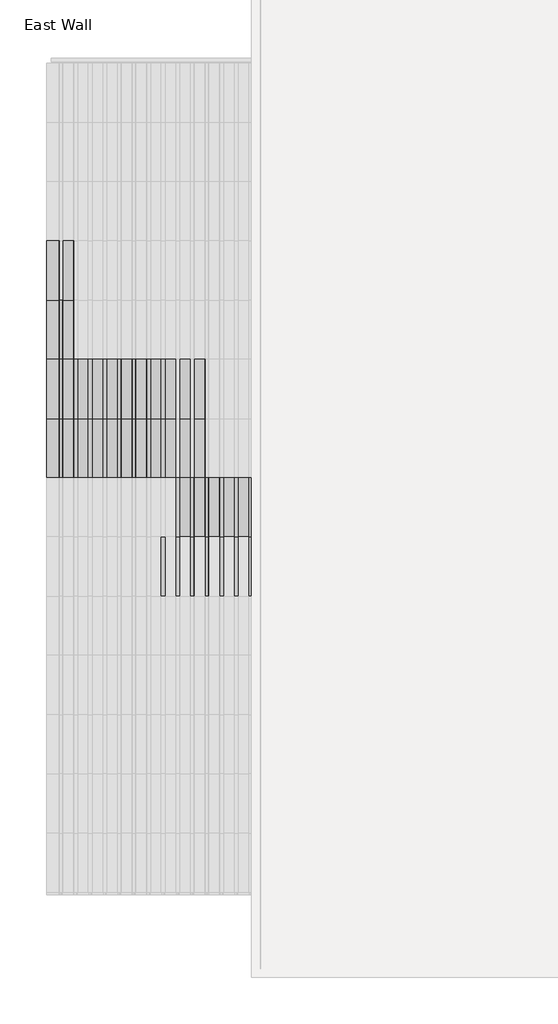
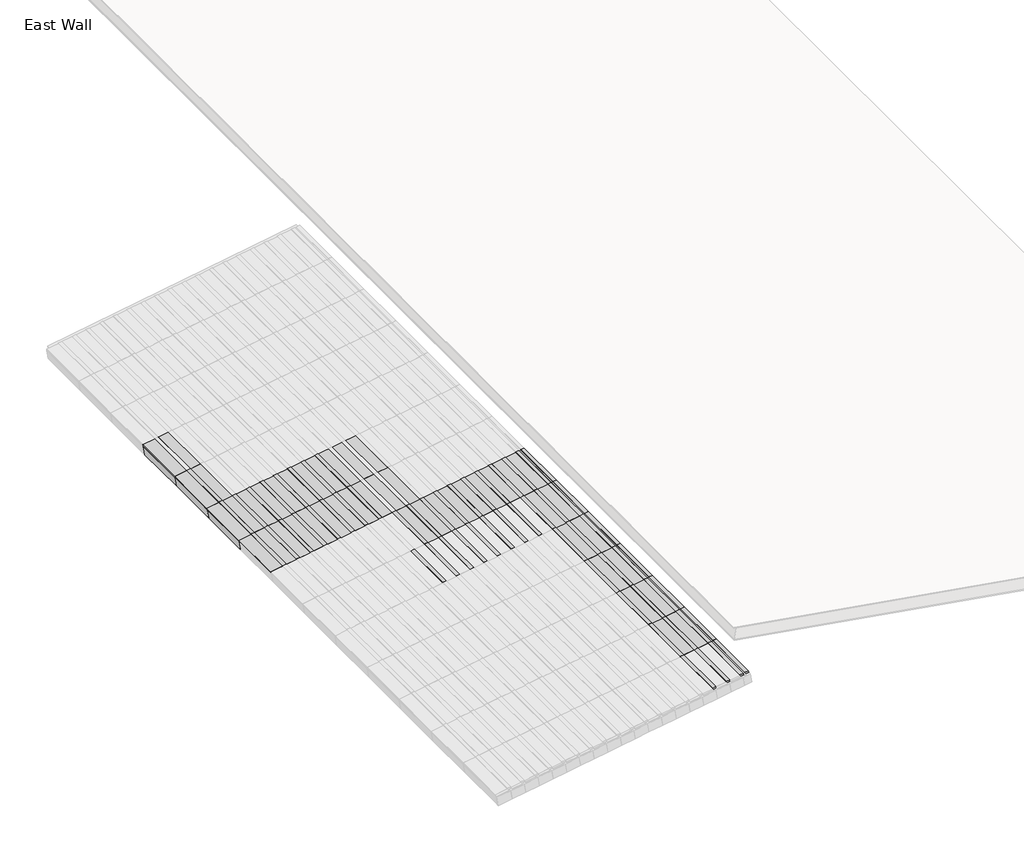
# One storey, part 3 of 5: 70 members, 51 plates.
"""IFC4 building model written with IfcOpenShell, lengths in millimetres."""

from ifc_helpers import new_model, si_unit, origin, place, context, project, spatial, transform, mapped, element, save
from components import rectangular_mullion_aluminum_trellis_036251f1, rectangular_mullion_fascia_9a07afea, rectangular_mullion_wood_slats_095afc73, rectangular_mullion_wood_slats_8d49de8e, system_panel_empty_9ec88690, system_panel_empty_e91cd120, system_panel_empty_25c6223c

model = new_model("IFC4")

# Units and contexts
model_context = context("Model", 3, world=origin())
ifc_project = project(units=[si_unit("LENGTHUNIT", "METRE", prefix="MILLI")], contexts=[model_context])

# Site, building, storey
site = spatial("IfcSite", under=ifc_project)
building = spatial("IfcBuilding", under=site)
storey = spatial("IfcBuildingStorey", under=building, Name="East Wall", Elevation=3657.6)

# Members
placement = place(None, origin())
rectangular_mullion_aluminum_trellis_shape = rectangular_mullion_aluminum_trellis_036251f1(model_context)
element("IfcMember", 1, ObjectType="Rectangular Mullion : Aluminum Trellis", at=placement, inside=storey, context=model_context, shape_type="MappedRepresentation", body=[
    mapped(rectangular_mullion_aluminum_trellis_shape, transform((12485.7750833, 7700.0499287, 3444.712565), x_axis=(0.0, -1.0, 0.0), y_axis=(0.16439898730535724, 0.0, -0.9863939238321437), z_axis=(0.9863939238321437, 0.0, 0.16439898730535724))),
])
element("IfcMember", 2, ObjectType="Rectangular Mullion : Aluminum Trellis", at=placement, inside=storey, context=model_context, shape_type="MappedRepresentation", body=[
    mapped(rectangular_mullion_aluminum_trellis_shape, transform((12485.7750833, 7090.4499287, 3444.712565), x_axis=(0.0, -1.0, 0.0), y_axis=(0.16439898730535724, 0.0, -0.9863939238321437), z_axis=(0.9863939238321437, 0.0, 0.16439898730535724))),
])
element("IfcMember", 3, ObjectType="Rectangular Mullion : Aluminum Trellis", at=placement, inside=storey, context=model_context, shape_type="MappedRepresentation", body=[
    mapped(rectangular_mullion_aluminum_trellis_shape, transform((12485.7750833, 6480.8499287, 3444.712565), x_axis=(0.0, -1.0, 0.0), y_axis=(0.16439898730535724, 0.0, -0.9863939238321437), z_axis=(0.9863939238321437, 0.0, 0.16439898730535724))),
])
element("IfcMember", 4, ObjectType="Rectangular Mullion : Aluminum Trellis", at=placement, inside=storey, context=model_context, shape_type="MappedRepresentation", body=[
    mapped(rectangular_mullion_aluminum_trellis_shape, transform((12485.7750833, 5871.2499287, 3444.712565), x_axis=(0.0, -1.0, 0.0), y_axis=(0.16439898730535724, 0.0, -0.9863939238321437), z_axis=(0.9863939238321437, 0.0, 0.16439898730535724))),
])
element("IfcMember", 5, ObjectType="Rectangular Mullion : Aluminum Trellis", at=placement, inside=storey, context=model_context, shape_type="MappedRepresentation", body=[
    mapped(rectangular_mullion_aluminum_trellis_shape, transform((12485.7750833, 5261.6499287, 3444.712565), x_axis=(0.0, -1.0, 0.0), y_axis=(0.16439898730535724, 0.0, -0.9863939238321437), z_axis=(0.9863939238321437, 0.0, 0.16439898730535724))),
])
element("IfcMember", 6, ObjectType="Rectangular Mullion : Aluminum Trellis", at=placement, inside=storey, context=model_context, shape_type="MappedRepresentation", body=[
    mapped(rectangular_mullion_aluminum_trellis_shape, transform((12485.7750833, 4652.0499287, 3444.712565), x_axis=(0.0, -1.0, 0.0), y_axis=(0.16439898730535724, 0.0, -0.9863939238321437), z_axis=(0.9863939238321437, 0.0, 0.16439898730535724))),
])
element("IfcMember", 7, ObjectType="Rectangular Mullion : Aluminum Trellis", at=placement, inside=storey, context=model_context, shape_type="MappedRepresentation", body=[
    mapped(rectangular_mullion_aluminum_trellis_shape, transform((12485.7750833, 4042.4499287, 3444.712565), x_axis=(0.0, -1.0, 0.0), y_axis=(0.16439898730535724, 0.0, -0.9863939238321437), z_axis=(0.9863939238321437, 0.0, 0.16439898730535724))),
])
rectangular_mullion_fascia_shape = rectangular_mullion_fascia_9a07afea(model_context)
element("IfcMember", 8, ObjectType="Rectangular Mullion : Fascia", at=placement, inside=storey, context=model_context, shape_type="MappedRepresentation", body=[
    mapped(rectangular_mullion_fascia_shape, transform((9705.6989802, 9554.2499281, 3044.5915776), x_axis=(-0.9863939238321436, 0.0, -0.16439898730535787), y_axis=(0.16439898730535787, 0.0, -0.9863939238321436), z_axis=(0.0, -1.0, 0.0))),
])
element("IfcMember", 9, ObjectType="Rectangular Mullion : Fascia", at=placement, inside=storey, context=model_context, shape_type="MappedRepresentation", body=[
    mapped(rectangular_mullion_fascia_shape, transform((9705.6989802, 8944.6499281, 3044.5915776), x_axis=(-0.9863939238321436, 0.0, -0.16439898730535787), y_axis=(0.16439898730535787, 0.0, -0.9863939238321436), z_axis=(0.0, -1.0, 0.0))),
])
element("IfcMember", 10, ObjectType="Rectangular Mullion : Fascia", at=placement, inside=storey, context=model_context, shape_type="MappedRepresentation", body=[
    mapped(rectangular_mullion_fascia_shape, transform((9705.6989802, 8335.0499281, 3044.5915776), x_axis=(-0.9863939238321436, 0.0, -0.16439898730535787), y_axis=(0.16439898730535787, 0.0, -0.9863939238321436), z_axis=(0.0, -1.0, 0.0))),
])
rectangular_mullion_wood_slats_shape = rectangular_mullion_wood_slats_095afc73(model_context)
element("IfcMember", 11, ObjectType="Rectangular Mullion : Wood Slats", at=placement, inside=storey, context=model_context, shape_type="MappedRepresentation", body=[
    mapped(rectangular_mullion_wood_slats_shape, transform((9856.0254142, 9554.2499281, 3069.6459833), x_axis=(0.9863939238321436, 0.0, 0.16439898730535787), y_axis=(0.16439898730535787, 0.0, -0.9863939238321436), z_axis=(0.0, 1.0, 0.0))),
])
element("IfcMember", 12, ObjectType="Rectangular Mullion : Wood Slats", at=placement, inside=storey, context=model_context, shape_type="MappedRepresentation", body=[
    mapped(rectangular_mullion_wood_slats_shape, transform((9856.0254142, 8944.6499281, 3069.6459833), x_axis=(0.9863939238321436, 0.0, 0.16439898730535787), y_axis=(0.16439898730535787, 0.0, -0.9863939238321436), z_axis=(0.0, 1.0, 0.0))),
])
element("IfcMember", 13, ObjectType="Rectangular Mullion : Wood Slats", at=placement, inside=storey, context=model_context, shape_type="MappedRepresentation", body=[
    mapped(rectangular_mullion_wood_slats_shape, transform((9856.0254142, 8335.0499281, 3069.6459833), x_axis=(0.9863939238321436, 0.0, 0.16439898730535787), y_axis=(0.16439898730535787, 0.0, -0.9863939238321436), z_axis=(0.0, 1.0, 0.0))),
])
element("IfcMember", 14, ObjectType="Rectangular Mullion : Wood Slats", at=placement, inside=storey, context=model_context, shape_type="MappedRepresentation", body=[
    mapped(rectangular_mullion_wood_slats_shape, transform((10006.3518482, 8944.6499281, 3094.700389), x_axis=(0.9863939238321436, 0.0, 0.16439898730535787), y_axis=(0.16439898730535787, 0.0, -0.9863939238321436), z_axis=(0.0, 1.0, 0.0))),
])
element("IfcMember", 15, ObjectType="Rectangular Mullion : Wood Slats", at=placement, inside=storey, context=model_context, shape_type="MappedRepresentation", body=[
    mapped(rectangular_mullion_wood_slats_shape, transform((10006.3518482, 8335.0499281, 3094.700389), x_axis=(0.9863939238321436, 0.0, 0.16439898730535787), y_axis=(0.16439898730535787, 0.0, -0.9863939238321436), z_axis=(0.0, 1.0, 0.0))),
])
element("IfcMember", 16, ObjectType="Rectangular Mullion : Wood Slats", at=placement, inside=storey, context=model_context, shape_type="MappedRepresentation", body=[
    mapped(rectangular_mullion_wood_slats_shape, transform((10156.6782822, 8944.6499281, 3119.7547946), x_axis=(0.9863939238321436, 0.0, 0.16439898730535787), y_axis=(0.16439898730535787, 0.0, -0.9863939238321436), z_axis=(0.0, 1.0, 0.0))),
])
element("IfcMember", 17, ObjectType="Rectangular Mullion : Wood Slats", at=placement, inside=storey, context=model_context, shape_type="MappedRepresentation", body=[
    mapped(rectangular_mullion_wood_slats_shape, transform((10156.6782822, 8335.0499281, 3119.7547946), x_axis=(0.9863939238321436, 0.0, 0.16439898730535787), y_axis=(0.16439898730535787, 0.0, -0.9863939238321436), z_axis=(0.0, 1.0, 0.0))),
])
element("IfcMember", 18, ObjectType="Rectangular Mullion : Wood Slats", at=placement, inside=storey, context=model_context, shape_type="MappedRepresentation", body=[
    mapped(rectangular_mullion_wood_slats_shape, transform((10307.0047162, 8944.6499281, 3144.8092003), x_axis=(0.9863939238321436, 0.0, 0.16439898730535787), y_axis=(0.16439898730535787, 0.0, -0.9863939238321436), z_axis=(0.0, 1.0, 0.0))),
])
element("IfcMember", 19, ObjectType="Rectangular Mullion : Wood Slats", at=placement, inside=storey, context=model_context, shape_type="MappedRepresentation", body=[
    mapped(rectangular_mullion_wood_slats_shape, transform((10307.0047162, 8335.0499281, 3144.8092003), x_axis=(0.9863939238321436, 0.0, 0.16439898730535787), y_axis=(0.16439898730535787, 0.0, -0.9863939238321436), z_axis=(0.0, 1.0, 0.0))),
])
element("IfcMember", 20, ObjectType="Rectangular Mullion : Wood Slats", at=placement, inside=storey, context=model_context, shape_type="MappedRepresentation", body=[
    mapped(rectangular_mullion_wood_slats_shape, transform((10457.3311502, 8944.6499281, 3169.863606), x_axis=(0.9863939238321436, 0.0, 0.16439898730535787), y_axis=(0.16439898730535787, 0.0, -0.9863939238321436), z_axis=(0.0, 1.0, 0.0))),
])
element("IfcMember", 21, ObjectType="Rectangular Mullion : Wood Slats", at=placement, inside=storey, context=model_context, shape_type="MappedRepresentation", body=[
    mapped(rectangular_mullion_wood_slats_shape, transform((10457.3311502, 8335.0499281, 3169.863606), x_axis=(0.9863939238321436, 0.0, 0.16439898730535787), y_axis=(0.16439898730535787, 0.0, -0.9863939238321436), z_axis=(0.0, 1.0, 0.0))),
])
element("IfcMember", 22, ObjectType="Rectangular Mullion : Wood Slats", at=placement, inside=storey, context=model_context, shape_type="MappedRepresentation", body=[
    mapped(rectangular_mullion_wood_slats_shape, transform((10607.6575842, 8944.6499281, 3194.9180116), x_axis=(0.9863939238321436, 0.0, 0.16439898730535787), y_axis=(0.16439898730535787, 0.0, -0.9863939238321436), z_axis=(0.0, 1.0, 0.0))),
])
element("IfcMember", 23, ObjectType="Rectangular Mullion : Wood Slats", at=placement, inside=storey, context=model_context, shape_type="MappedRepresentation", body=[
    mapped(rectangular_mullion_wood_slats_shape, transform((10607.6575842, 8335.0499281, 3194.9180116), x_axis=(0.9863939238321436, 0.0, 0.16439898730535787), y_axis=(0.16439898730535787, 0.0, -0.9863939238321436), z_axis=(0.0, 1.0, 0.0))),
])
element("IfcMember", 24, ObjectType="Rectangular Mullion : Wood Slats", at=placement, inside=storey, context=model_context, shape_type="MappedRepresentation", body=[
    mapped(rectangular_mullion_wood_slats_shape, transform((10757.9840182, 8944.6499281, 3219.9724173), x_axis=(0.9863939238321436, 0.0, 0.16439898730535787), y_axis=(0.16439898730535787, 0.0, -0.9863939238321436), z_axis=(0.0, 1.0, 0.0))),
])
element("IfcMember", 25, ObjectType="Rectangular Mullion : Wood Slats", at=placement, inside=storey, context=model_context, shape_type="MappedRepresentation", body=[
    mapped(rectangular_mullion_wood_slats_shape, transform((10757.9840182, 8335.0499281, 3219.9724173), x_axis=(0.9863939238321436, 0.0, 0.16439898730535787), y_axis=(0.16439898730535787, 0.0, -0.9863939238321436), z_axis=(0.0, 1.0, 0.0))),
])
element("IfcMember", 26, ObjectType="Rectangular Mullion : Wood Slats", at=placement, inside=storey, context=model_context, shape_type="MappedRepresentation", body=[
    mapped(rectangular_mullion_wood_slats_shape, transform((10908.3104522, 8944.6499281, 3245.026823), x_axis=(0.9863939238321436, 0.0, 0.16439898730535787), y_axis=(0.16439898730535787, 0.0, -0.9863939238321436), z_axis=(0.0, 1.0, 0.0))),
])
element("IfcMember", 27, ObjectType="Rectangular Mullion : Wood Slats", at=placement, inside=storey, context=model_context, shape_type="MappedRepresentation", body=[
    mapped(rectangular_mullion_wood_slats_shape, transform((10908.3104522, 8335.0499281, 3245.026823), x_axis=(0.9863939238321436, 0.0, 0.16439898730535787), y_axis=(0.16439898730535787, 0.0, -0.9863939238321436), z_axis=(0.0, 1.0, 0.0))),
])
element("IfcMember", 28, ObjectType="Rectangular Mullion : Wood Slats", at=placement, inside=storey, context=model_context, shape_type="MappedRepresentation", body=[
    mapped(rectangular_mullion_wood_slats_shape, transform((10908.3104522, 7115.8499281, 3245.026823), x_axis=(0.9863939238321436, 0.0, 0.16439898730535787), y_axis=(0.16439898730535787, 0.0, -0.9863939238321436), z_axis=(0.0, 1.0, 0.0))),
])
element("IfcMember", 29, ObjectType="Rectangular Mullion : Wood Slats", at=placement, inside=storey, context=model_context, shape_type="MappedRepresentation", body=[
    mapped(rectangular_mullion_wood_slats_shape, transform((11058.6368862, 7725.4499281, 3270.0812286), x_axis=(0.9863939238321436, 0.0, 0.16439898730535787), y_axis=(0.16439898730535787, 0.0, -0.9863939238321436), z_axis=(0.0, 1.0, 0.0))),
])
element("IfcMember", 30, ObjectType="Rectangular Mullion : Wood Slats", at=placement, inside=storey, context=model_context, shape_type="MappedRepresentation", body=[
    mapped(rectangular_mullion_wood_slats_shape, transform((11058.6368862, 7115.8499281, 3270.0812286), x_axis=(0.9863939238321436, 0.0, 0.16439898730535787), y_axis=(0.16439898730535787, 0.0, -0.9863939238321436), z_axis=(0.0, 1.0, 0.0))),
])
element("IfcMember", 31, ObjectType="Rectangular Mullion : Wood Slats", at=placement, inside=storey, context=model_context, shape_type="MappedRepresentation", body=[
    mapped(rectangular_mullion_wood_slats_shape, transform((11208.9633201, 7725.4499281, 3295.1356343), x_axis=(0.9863939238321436, 0.0, 0.16439898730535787), y_axis=(0.16439898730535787, 0.0, -0.9863939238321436), z_axis=(0.0, 1.0, 0.0))),
])
element("IfcMember", 32, ObjectType="Rectangular Mullion : Wood Slats", at=placement, inside=storey, context=model_context, shape_type="MappedRepresentation", body=[
    mapped(rectangular_mullion_wood_slats_shape, transform((11208.9633201, 7115.8499281, 3295.1356343), x_axis=(0.9863939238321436, 0.0, 0.16439898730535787), y_axis=(0.16439898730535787, 0.0, -0.9863939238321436), z_axis=(0.0, 1.0, 0.0))),
])
element("IfcMember", 33, ObjectType="Rectangular Mullion : Wood Slats", at=placement, inside=storey, context=model_context, shape_type="MappedRepresentation", body=[
    mapped(rectangular_mullion_wood_slats_shape, transform((11359.2897541, 7725.4499281, 3320.19004), x_axis=(0.9863939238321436, 0.0, 0.16439898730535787), y_axis=(0.16439898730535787, 0.0, -0.9863939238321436), z_axis=(0.0, 1.0, 0.0))),
])
element("IfcMember", 34, ObjectType="Rectangular Mullion : Wood Slats", at=placement, inside=storey, context=model_context, shape_type="MappedRepresentation", body=[
    mapped(rectangular_mullion_wood_slats_shape, transform((11359.2897541, 7115.8499281, 3320.19004), x_axis=(0.9863939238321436, 0.0, 0.16439898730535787), y_axis=(0.16439898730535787, 0.0, -0.9863939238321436), z_axis=(0.0, 1.0, 0.0))),
])
element("IfcMember", 35, ObjectType="Rectangular Mullion : Wood Slats", at=placement, inside=storey, context=model_context, shape_type="MappedRepresentation", body=[
    mapped(rectangular_mullion_wood_slats_shape, transform((11509.6161881, 7725.4499281, 3345.2444456), x_axis=(0.9863939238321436, 0.0, 0.16439898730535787), y_axis=(0.16439898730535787, 0.0, -0.9863939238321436), z_axis=(0.0, 1.0, 0.0))),
])
element("IfcMember", 36, ObjectType="Rectangular Mullion : Wood Slats", at=placement, inside=storey, context=model_context, shape_type="MappedRepresentation", body=[
    mapped(rectangular_mullion_wood_slats_shape, transform((11509.6161881, 7115.8499281, 3345.2444456), x_axis=(0.9863939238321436, 0.0, 0.16439898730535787), y_axis=(0.16439898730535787, 0.0, -0.9863939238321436), z_axis=(0.0, 1.0, 0.0))),
])
element("IfcMember", 37, ObjectType="Rectangular Mullion : Wood Slats", at=placement, inside=storey, context=model_context, shape_type="MappedRepresentation", body=[
    mapped(rectangular_mullion_wood_slats_shape, transform((11659.9426221, 7725.4499281, 3370.2988513), x_axis=(0.9863939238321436, 0.0, 0.16439898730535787), y_axis=(0.16439898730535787, 0.0, -0.9863939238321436), z_axis=(0.0, 1.0, 0.0))),
])
element("IfcMember", 38, ObjectType="Rectangular Mullion : Wood Slats", at=placement, inside=storey, context=model_context, shape_type="MappedRepresentation", body=[
    mapped(rectangular_mullion_wood_slats_shape, transform((11659.9426221, 7115.8499281, 3370.2988513), x_axis=(0.9863939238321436, 0.0, 0.16439898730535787), y_axis=(0.16439898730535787, 0.0, -0.9863939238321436), z_axis=(0.0, 1.0, 0.0))),
])
element("IfcMember", 39, ObjectType="Rectangular Mullion : Wood Slats", at=placement, inside=storey, context=model_context, shape_type="MappedRepresentation", body=[
    mapped(rectangular_mullion_wood_slats_shape, transform((11810.2690561, 7725.4499281, 3395.353257), x_axis=(0.9863939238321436, 0.0, 0.16439898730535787), y_axis=(0.16439898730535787, 0.0, -0.9863939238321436), z_axis=(0.0, 1.0, 0.0))),
])
element("IfcMember", 40, ObjectType="Rectangular Mullion : Wood Slats", at=placement, inside=storey, context=model_context, shape_type="MappedRepresentation", body=[
    mapped(rectangular_mullion_wood_slats_shape, transform((11810.2690561, 7115.8499281, 3395.353257), x_axis=(0.9863939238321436, 0.0, 0.16439898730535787), y_axis=(0.16439898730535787, 0.0, -0.9863939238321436), z_axis=(0.0, 1.0, 0.0))),
])
element("IfcMember", 41, ObjectType="Rectangular Mullion : Wood Slats", at=placement, inside=storey, context=model_context, shape_type="MappedRepresentation", body=[
    mapped(rectangular_mullion_wood_slats_shape, transform((11960.5954901, 7725.4499281, 3420.4076626), x_axis=(0.9863939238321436, 0.0, 0.16439898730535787), y_axis=(0.16439898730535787, 0.0, -0.9863939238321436), z_axis=(0.0, 1.0, 0.0))),
])
element("IfcMember", 42, ObjectType="Rectangular Mullion : Wood Slats", at=placement, inside=storey, context=model_context, shape_type="MappedRepresentation", body=[
    mapped(rectangular_mullion_wood_slats_shape, transform((11960.5954901, 7115.8499281, 3420.4076626), x_axis=(0.9863939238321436, 0.0, 0.16439898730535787), y_axis=(0.16439898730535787, 0.0, -0.9863939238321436), z_axis=(0.0, 1.0, 0.0))),
])
element("IfcMember", 43, ObjectType="Rectangular Mullion : Wood Slats", at=placement, inside=storey, context=model_context, shape_type="MappedRepresentation", body=[
    mapped(rectangular_mullion_wood_slats_shape, transform((12110.9219241, 7725.4499281, 3445.4620683), x_axis=(0.9863939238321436, 0.0, 0.16439898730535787), y_axis=(0.16439898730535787, 0.0, -0.9863939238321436), z_axis=(0.0, 1.0, 0.0))),
])
element("IfcMember", 44, ObjectType="Rectangular Mullion : Wood Slats", at=placement, inside=storey, context=model_context, shape_type="MappedRepresentation", body=[
    mapped(rectangular_mullion_wood_slats_shape, transform((12110.9219241, 7115.8499281, 3445.4620683), x_axis=(0.9863939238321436, 0.0, 0.16439898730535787), y_axis=(0.16439898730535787, 0.0, -0.9863939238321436), z_axis=(0.0, 1.0, 0.0))),
])
element("IfcMember", 45, ObjectType="Rectangular Mullion : Wood Slats", at=placement, inside=storey, context=model_context, shape_type="MappedRepresentation", body=[
    mapped(rectangular_mullion_wood_slats_shape, transform((12110.9219241, 6506.2499281, 3445.4620683), x_axis=(0.9863939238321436, 0.0, 0.16439898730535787), y_axis=(0.16439898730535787, 0.0, -0.9863939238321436), z_axis=(0.0, 1.0, 0.0))),
])
element("IfcMember", 46, ObjectType="Rectangular Mullion : Wood Slats", at=placement, inside=storey, context=model_context, shape_type="MappedRepresentation", body=[
    mapped(rectangular_mullion_wood_slats_shape, transform((12110.9219241, 5896.6499281, 3445.4620683), x_axis=(0.9863939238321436, 0.0, 0.16439898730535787), y_axis=(0.16439898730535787, 0.0, -0.9863939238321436), z_axis=(0.0, 1.0, 0.0))),
])
element("IfcMember", 47, ObjectType="Rectangular Mullion : Wood Slats", at=placement, inside=storey, context=model_context, shape_type="MappedRepresentation", body=[
    mapped(rectangular_mullion_wood_slats_shape, transform((12110.9219241, 5287.0499281, 3445.4620683), x_axis=(0.9863939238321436, 0.0, 0.16439898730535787), y_axis=(0.16439898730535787, 0.0, -0.9863939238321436), z_axis=(0.0, 1.0, 0.0))),
])
element("IfcMember", 48, ObjectType="Rectangular Mullion : Wood Slats", at=placement, inside=storey, context=model_context, shape_type="MappedRepresentation", body=[
    mapped(rectangular_mullion_wood_slats_shape, transform((12110.9219241, 4677.4499281, 3445.4620683), x_axis=(0.9863939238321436, 0.0, 0.16439898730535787), y_axis=(0.16439898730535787, 0.0, -0.9863939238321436), z_axis=(0.0, 1.0, 0.0))),
])
element("IfcMember", 49, ObjectType="Rectangular Mullion : Wood Slats", at=placement, inside=storey, context=model_context, shape_type="MappedRepresentation", body=[
    mapped(rectangular_mullion_wood_slats_shape, transform((12110.9219241, 4067.8499281, 3445.4620683), x_axis=(0.9863939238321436, 0.0, 0.16439898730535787), y_axis=(0.16439898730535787, 0.0, -0.9863939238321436), z_axis=(0.0, 1.0, 0.0))),
])
element("IfcMember", 50, ObjectType="Rectangular Mullion : Wood Slats", at=placement, inside=storey, context=model_context, shape_type="MappedRepresentation", body=[
    mapped(rectangular_mullion_wood_slats_shape, transform((12261.2483581, 7725.4499281, 3470.516474), x_axis=(0.9863939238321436, 0.0, 0.16439898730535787), y_axis=(0.16439898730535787, 0.0, -0.9863939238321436), z_axis=(0.0, 1.0, 0.0))),
])
element("IfcMember", 51, ObjectType="Rectangular Mullion : Wood Slats", at=placement, inside=storey, context=model_context, shape_type="MappedRepresentation", body=[
    mapped(rectangular_mullion_wood_slats_shape, transform((12261.2483581, 7115.8499281, 3470.516474), x_axis=(0.9863939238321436, 0.0, 0.16439898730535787), y_axis=(0.16439898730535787, 0.0, -0.9863939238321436), z_axis=(0.0, 1.0, 0.0))),
])
element("IfcMember", 52, ObjectType="Rectangular Mullion : Wood Slats", at=placement, inside=storey, context=model_context, shape_type="MappedRepresentation", body=[
    mapped(rectangular_mullion_wood_slats_shape, transform((12261.2483581, 6506.2499281, 3470.516474), x_axis=(0.9863939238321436, 0.0, 0.16439898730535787), y_axis=(0.16439898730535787, 0.0, -0.9863939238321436), z_axis=(0.0, 1.0, 0.0))),
])
element("IfcMember", 53, ObjectType="Rectangular Mullion : Wood Slats", at=placement, inside=storey, context=model_context, shape_type="MappedRepresentation", body=[
    mapped(rectangular_mullion_wood_slats_shape, transform((12261.2483581, 5896.6499281, 3470.516474), x_axis=(0.9863939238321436, 0.0, 0.16439898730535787), y_axis=(0.16439898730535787, 0.0, -0.9863939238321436), z_axis=(0.0, 1.0, 0.0))),
])
element("IfcMember", 54, ObjectType="Rectangular Mullion : Wood Slats", at=placement, inside=storey, context=model_context, shape_type="MappedRepresentation", body=[
    mapped(rectangular_mullion_wood_slats_shape, transform((12261.2483581, 5287.0499281, 3470.516474), x_axis=(0.9863939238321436, 0.0, 0.16439898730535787), y_axis=(0.16439898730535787, 0.0, -0.9863939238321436), z_axis=(0.0, 1.0, 0.0))),
])
element("IfcMember", 55, ObjectType="Rectangular Mullion : Wood Slats", at=placement, inside=storey, context=model_context, shape_type="MappedRepresentation", body=[
    mapped(rectangular_mullion_wood_slats_shape, transform((12261.2483581, 4677.4499281, 3470.516474), x_axis=(0.9863939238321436, 0.0, 0.16439898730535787), y_axis=(0.16439898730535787, 0.0, -0.9863939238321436), z_axis=(0.0, 1.0, 0.0))),
])
element("IfcMember", 56, ObjectType="Rectangular Mullion : Wood Slats", at=placement, inside=storey, context=model_context, shape_type="MappedRepresentation", body=[
    mapped(rectangular_mullion_wood_slats_shape, transform((12261.2483581, 4067.8499281, 3470.516474), x_axis=(0.9863939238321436, 0.0, 0.16439898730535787), y_axis=(0.16439898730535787, 0.0, -0.9863939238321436), z_axis=(0.0, 1.0, 0.0))),
])
element("IfcMember", 57, ObjectType="Rectangular Mullion : Wood Slats", at=placement, inside=storey, context=model_context, shape_type="MappedRepresentation", body=[
    mapped(rectangular_mullion_wood_slats_shape, transform((12411.5747921, 7725.4499281, 3495.5708796), x_axis=(0.9863939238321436, 0.0, 0.16439898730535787), y_axis=(0.16439898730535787, 0.0, -0.9863939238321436), z_axis=(0.0, 1.0, 0.0))),
])
element("IfcMember", 58, ObjectType="Rectangular Mullion : Wood Slats", at=placement, inside=storey, context=model_context, shape_type="MappedRepresentation", body=[
    mapped(rectangular_mullion_wood_slats_shape, transform((12411.5747921, 7115.8499281, 3495.5708796), x_axis=(0.9863939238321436, 0.0, 0.16439898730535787), y_axis=(0.16439898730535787, 0.0, -0.9863939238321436), z_axis=(0.0, 1.0, 0.0))),
])
element("IfcMember", 59, ObjectType="Rectangular Mullion : Wood Slats", at=placement, inside=storey, context=model_context, shape_type="MappedRepresentation", body=[
    mapped(rectangular_mullion_wood_slats_shape, transform((12411.5747921, 6506.2499281, 3495.5708796), x_axis=(0.9863939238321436, 0.0, 0.16439898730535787), y_axis=(0.16439898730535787, 0.0, -0.9863939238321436), z_axis=(0.0, 1.0, 0.0))),
])
element("IfcMember", 60, ObjectType="Rectangular Mullion : Wood Slats", at=placement, inside=storey, context=model_context, shape_type="MappedRepresentation", body=[
    mapped(rectangular_mullion_wood_slats_shape, transform((12411.5747921, 5896.6499281, 3495.5708796), x_axis=(0.9863939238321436, 0.0, 0.16439898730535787), y_axis=(0.16439898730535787, 0.0, -0.9863939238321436), z_axis=(0.0, 1.0, 0.0))),
])
element("IfcMember", 61, ObjectType="Rectangular Mullion : Wood Slats", at=placement, inside=storey, context=model_context, shape_type="MappedRepresentation", body=[
    mapped(rectangular_mullion_wood_slats_shape, transform((12411.5747921, 5287.0499281, 3495.5708796), x_axis=(0.9863939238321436, 0.0, 0.16439898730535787), y_axis=(0.16439898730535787, 0.0, -0.9863939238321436), z_axis=(0.0, 1.0, 0.0))),
])
element("IfcMember", 62, ObjectType="Rectangular Mullion : Wood Slats", at=placement, inside=storey, context=model_context, shape_type="MappedRepresentation", body=[
    mapped(rectangular_mullion_wood_slats_shape, transform((12411.5747921, 4677.4499281, 3495.5708796), x_axis=(0.9863939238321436, 0.0, 0.16439898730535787), y_axis=(0.16439898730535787, 0.0, -0.9863939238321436), z_axis=(0.0, 1.0, 0.0))),
])
element("IfcMember", 63, ObjectType="Rectangular Mullion : Wood Slats", at=placement, inside=storey, context=model_context, shape_type="MappedRepresentation", body=[
    mapped(rectangular_mullion_wood_slats_shape, transform((12411.5747921, 4067.8499281, 3495.5708796), x_axis=(0.9863939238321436, 0.0, 0.16439898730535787), y_axis=(0.16439898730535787, 0.0, -0.9863939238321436), z_axis=(0.0, 1.0, 0.0))),
])
rectangular_mullion_wood_slats_2_shape = rectangular_mullion_wood_slats_8d49de8e(model_context)
element("IfcMember", 64, ObjectType="Rectangular Mullion : Wood Slats", at=placement, inside=storey, context=model_context, shape_type="MappedRepresentation", body=[
    mapped(rectangular_mullion_wood_slats_2_shape, transform((12485.7750833, 7725.4499281, 3507.9375948), x_axis=(0.9863939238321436, 0.0, 0.16439898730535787), y_axis=(0.16439898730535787, 0.0, -0.9863939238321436), z_axis=(0.0, 1.0, 0.0))),
])
element("IfcMember", 65, ObjectType="Rectangular Mullion : Wood Slats", at=placement, inside=storey, context=model_context, shape_type="MappedRepresentation", body=[
    mapped(rectangular_mullion_wood_slats_2_shape, transform((12485.7750833, 7115.8499281, 3507.9375948), x_axis=(0.9863939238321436, 0.0, 0.16439898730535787), y_axis=(0.16439898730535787, 0.0, -0.9863939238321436), z_axis=(0.0, 1.0, 0.0))),
])
element("IfcMember", 66, ObjectType="Rectangular Mullion : Wood Slats", at=placement, inside=storey, context=model_context, shape_type="MappedRepresentation", body=[
    mapped(rectangular_mullion_wood_slats_2_shape, transform((12485.7750833, 6506.2499281, 3507.9375948), x_axis=(0.9863939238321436, 0.0, 0.16439898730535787), y_axis=(0.16439898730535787, 0.0, -0.9863939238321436), z_axis=(0.0, 1.0, 0.0))),
])
element("IfcMember", 67, ObjectType="Rectangular Mullion : Wood Slats", at=placement, inside=storey, context=model_context, shape_type="MappedRepresentation", body=[
    mapped(rectangular_mullion_wood_slats_2_shape, transform((12485.7750833, 5896.6499281, 3507.9375948), x_axis=(0.9863939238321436, 0.0, 0.16439898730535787), y_axis=(0.16439898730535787, 0.0, -0.9863939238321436), z_axis=(0.0, 1.0, 0.0))),
])
element("IfcMember", 68, ObjectType="Rectangular Mullion : Wood Slats", at=placement, inside=storey, context=model_context, shape_type="MappedRepresentation", body=[
    mapped(rectangular_mullion_wood_slats_2_shape, transform((12485.7750833, 5287.0499281, 3507.9375948), x_axis=(0.9863939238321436, 0.0, 0.16439898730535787), y_axis=(0.16439898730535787, 0.0, -0.9863939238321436), z_axis=(0.0, 1.0, 0.0))),
])
element("IfcMember", 69, ObjectType="Rectangular Mullion : Wood Slats", at=placement, inside=storey, context=model_context, shape_type="MappedRepresentation", body=[
    mapped(rectangular_mullion_wood_slats_2_shape, transform((12485.7750833, 4677.4499281, 3507.9375948), x_axis=(0.9863939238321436, 0.0, 0.16439898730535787), y_axis=(0.16439898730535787, 0.0, -0.9863939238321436), z_axis=(0.0, 1.0, 0.0))),
])
element("IfcMember", 70, ObjectType="Rectangular Mullion : Wood Slats", at=placement, inside=storey, context=model_context, shape_type="MappedRepresentation", body=[
    mapped(rectangular_mullion_wood_slats_2_shape, transform((12485.7750833, 4067.8499281, 3507.9375948), x_axis=(0.9863939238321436, 0.0, 0.16439898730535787), y_axis=(0.16439898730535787, 0.0, -0.9863939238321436), z_axis=(0.0, 1.0, 0.0))),
])

# Plates
system_panel_empty_shape = system_panel_empty_9ec88690(model_context)
element("IfcPlate", 71, ObjectType="System Panel : Empty", at=placement, inside=storey, context=model_context, shape_type="MappedRepresentation", body=[
    mapped(system_panel_empty_shape, transform((9874.8162185, 9859.0499281, 3072.777784), x_axis=(0.0, -1.0, 0.0), y_axis=(0.16439898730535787, 0.0, -0.9863939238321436), z_axis=(0.9863939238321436, 0.0, 0.16439898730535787))),
])
element("IfcPlate", 72, ObjectType="System Panel : Empty", at=placement, inside=storey, context=model_context, shape_type="MappedRepresentation", body=[
    mapped(system_panel_empty_shape, transform((9874.8162185, 9249.4499281, 3072.777784), x_axis=(0.0, -1.0, 0.0), y_axis=(0.16439898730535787, 0.0, -0.9863939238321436), z_axis=(0.9863939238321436, 0.0, 0.16439898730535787))),
])
element("IfcPlate", 73, ObjectType="System Panel : Empty", at=placement, inside=storey, context=model_context, shape_type="MappedRepresentation", body=[
    mapped(system_panel_empty_shape, transform((9874.8162185, 8639.8499281, 3072.777784), x_axis=(0.0, -1.0, 0.0), y_axis=(0.16439898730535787, 0.0, -0.9863939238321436), z_axis=(0.9863939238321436, 0.0, 0.16439898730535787))),
])
element("IfcPlate", 74, ObjectType="System Panel : Empty", at=placement, inside=storey, context=model_context, shape_type="MappedRepresentation", body=[
    mapped(system_panel_empty_shape, transform((9874.8162185, 8030.2499281, 3072.777784), x_axis=(0.0, -1.0, 0.0), y_axis=(0.16439898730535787, 0.0, -0.9863939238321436), z_axis=(0.9863939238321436, 0.0, 0.16439898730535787))),
])
element("IfcPlate", 75, ObjectType="System Panel : Empty", at=placement, inside=storey, context=model_context, shape_type="MappedRepresentation", body=[
    mapped(system_panel_empty_shape, transform((10025.1426525, 8639.8499281, 3097.8321897), x_axis=(0.0, -1.0, 0.0), y_axis=(0.16439898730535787, 0.0, -0.9863939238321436), z_axis=(0.9863939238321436, 0.0, 0.16439898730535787))),
])
element("IfcPlate", 76, ObjectType="System Panel : Empty", at=placement, inside=storey, context=model_context, shape_type="MappedRepresentation", body=[
    mapped(system_panel_empty_shape, transform((10025.1426525, 8030.2499281, 3097.8321897), x_axis=(0.0, -1.0, 0.0), y_axis=(0.16439898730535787, 0.0, -0.9863939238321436), z_axis=(0.9863939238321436, 0.0, 0.16439898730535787))),
])
element("IfcPlate", 77, ObjectType="System Panel : Empty", at=placement, inside=storey, context=model_context, shape_type="MappedRepresentation", body=[
    mapped(system_panel_empty_shape, transform((10175.4690865, 8639.8499281, 3122.8865954), x_axis=(0.0, -1.0, 0.0), y_axis=(0.16439898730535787, 0.0, -0.9863939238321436), z_axis=(0.9863939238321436, 0.0, 0.16439898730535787))),
])
element("IfcPlate", 78, ObjectType="System Panel : Empty", at=placement, inside=storey, context=model_context, shape_type="MappedRepresentation", body=[
    mapped(system_panel_empty_shape, transform((10175.4690865, 8030.2499281, 3122.8865954), x_axis=(0.0, -1.0, 0.0), y_axis=(0.16439898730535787, 0.0, -0.9863939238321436), z_axis=(0.9863939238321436, 0.0, 0.16439898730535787))),
])
element("IfcPlate", 79, ObjectType="System Panel : Empty", at=placement, inside=storey, context=model_context, shape_type="MappedRepresentation", body=[
    mapped(system_panel_empty_shape, transform((10325.7955204, 8639.8499281, 3147.941001), x_axis=(0.0, -1.0, 0.0), y_axis=(0.16439898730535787, 0.0, -0.9863939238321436), z_axis=(0.9863939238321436, 0.0, 0.16439898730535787))),
])
element("IfcPlate", 80, ObjectType="System Panel : Empty", at=placement, inside=storey, context=model_context, shape_type="MappedRepresentation", body=[
    mapped(system_panel_empty_shape, transform((10325.7955204, 8030.2499281, 3147.941001), x_axis=(0.0, -1.0, 0.0), y_axis=(0.16439898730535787, 0.0, -0.9863939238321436), z_axis=(0.9863939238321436, 0.0, 0.16439898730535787))),
])
element("IfcPlate", 81, ObjectType="System Panel : Empty", at=placement, inside=storey, context=model_context, shape_type="MappedRepresentation", body=[
    mapped(system_panel_empty_shape, transform((10476.1219544, 8639.8499281, 3172.9954067), x_axis=(0.0, -1.0, 0.0), y_axis=(0.16439898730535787, 0.0, -0.9863939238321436), z_axis=(0.9863939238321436, 0.0, 0.16439898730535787))),
])
element("IfcPlate", 82, ObjectType="System Panel : Empty", at=placement, inside=storey, context=model_context, shape_type="MappedRepresentation", body=[
    mapped(system_panel_empty_shape, transform((10476.1219544, 8030.2499281, 3172.9954067), x_axis=(0.0, -1.0, 0.0), y_axis=(0.16439898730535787, 0.0, -0.9863939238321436), z_axis=(0.9863939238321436, 0.0, 0.16439898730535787))),
])
element("IfcPlate", 83, ObjectType="System Panel : Empty", at=placement, inside=storey, context=model_context, shape_type="MappedRepresentation", body=[
    mapped(system_panel_empty_shape, transform((10626.4483884, 8639.8499281, 3198.0498123), x_axis=(0.0, -1.0, 0.0), y_axis=(0.16439898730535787, 0.0, -0.9863939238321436), z_axis=(0.9863939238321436, 0.0, 0.16439898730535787))),
])
element("IfcPlate", 84, ObjectType="System Panel : Empty", at=placement, inside=storey, context=model_context, shape_type="MappedRepresentation", body=[
    mapped(system_panel_empty_shape, transform((10626.4483884, 8030.2499281, 3198.0498123), x_axis=(0.0, -1.0, 0.0), y_axis=(0.16439898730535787, 0.0, -0.9863939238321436), z_axis=(0.9863939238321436, 0.0, 0.16439898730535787))),
])
element("IfcPlate", 85, ObjectType="System Panel : Empty", at=placement, inside=storey, context=model_context, shape_type="MappedRepresentation", body=[
    mapped(system_panel_empty_shape, transform((10776.7748224, 8639.8499281, 3223.104218), x_axis=(0.0, -1.0, 0.0), y_axis=(0.16439898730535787, 0.0, -0.9863939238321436), z_axis=(0.9863939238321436, 0.0, 0.16439898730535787))),
])
element("IfcPlate", 86, ObjectType="System Panel : Empty", at=placement, inside=storey, context=model_context, shape_type="MappedRepresentation", body=[
    mapped(system_panel_empty_shape, transform((10776.7748224, 8030.2499281, 3223.104218), x_axis=(0.0, -1.0, 0.0), y_axis=(0.16439898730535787, 0.0, -0.9863939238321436), z_axis=(0.9863939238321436, 0.0, 0.16439898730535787))),
])
element("IfcPlate", 87, ObjectType="System Panel : Empty", at=placement, inside=storey, context=model_context, shape_type="MappedRepresentation", body=[
    mapped(system_panel_empty_shape, transform((10927.1012564, 8639.8499281, 3248.1586237), x_axis=(0.0, -1.0, 0.0), y_axis=(0.16439898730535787, 0.0, -0.9863939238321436), z_axis=(0.9863939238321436, 0.0, 0.16439898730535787))),
])
element("IfcPlate", 88, ObjectType="System Panel : Empty", at=placement, inside=storey, context=model_context, shape_type="MappedRepresentation", body=[
    mapped(system_panel_empty_shape, transform((10927.1012564, 8030.2499281, 3248.1586237), x_axis=(0.0, -1.0, 0.0), y_axis=(0.16439898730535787, 0.0, -0.9863939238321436), z_axis=(0.9863939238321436, 0.0, 0.16439898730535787))),
])
element("IfcPlate", 89, ObjectType="System Panel : Empty", at=placement, inside=storey, context=model_context, shape_type="MappedRepresentation", body=[
    mapped(system_panel_empty_shape, transform((11077.4276904, 8639.8499281, 3273.2130293), x_axis=(0.0, -1.0, 0.0), y_axis=(0.16439898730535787, 0.0, -0.9863939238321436), z_axis=(0.9863939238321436, 0.0, 0.16439898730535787))),
])
element("IfcPlate", 90, ObjectType="System Panel : Empty", at=placement, inside=storey, context=model_context, shape_type="MappedRepresentation", body=[
    mapped(system_panel_empty_shape, transform((11077.4276904, 8030.2499281, 3273.2130293), x_axis=(0.0, -1.0, 0.0), y_axis=(0.16439898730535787, 0.0, -0.9863939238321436), z_axis=(0.9863939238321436, 0.0, 0.16439898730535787))),
])
element("IfcPlate", 91, ObjectType="System Panel : Empty", at=placement, inside=storey, context=model_context, shape_type="MappedRepresentation", body=[
    mapped(system_panel_empty_shape, transform((11077.4276904, 7420.6499281, 3273.2130293), x_axis=(0.0, -1.0, 0.0), y_axis=(0.16439898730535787, 0.0, -0.9863939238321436), z_axis=(0.9863939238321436, 0.0, 0.16439898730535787))),
])
element("IfcPlate", 92, ObjectType="System Panel : Empty", at=placement, inside=storey, context=model_context, shape_type="MappedRepresentation", body=[
    mapped(system_panel_empty_shape, transform((11227.7541244, 8639.8499281, 3298.267435), x_axis=(0.0, -1.0, 0.0), y_axis=(0.16439898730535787, 0.0, -0.9863939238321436), z_axis=(0.9863939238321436, 0.0, 0.16439898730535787))),
])
element("IfcPlate", 93, ObjectType="System Panel : Empty", at=placement, inside=storey, context=model_context, shape_type="MappedRepresentation", body=[
    mapped(system_panel_empty_shape, transform((11227.7541244, 8030.2499281, 3298.267435), x_axis=(0.0, -1.0, 0.0), y_axis=(0.16439898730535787, 0.0, -0.9863939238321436), z_axis=(0.9863939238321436, 0.0, 0.16439898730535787))),
])
element("IfcPlate", 94, ObjectType="System Panel : Empty", at=placement, inside=storey, context=model_context, shape_type="MappedRepresentation", body=[
    mapped(system_panel_empty_shape, transform((11227.7541244, 7420.6499281, 3298.267435), x_axis=(0.0, -1.0, 0.0), y_axis=(0.16439898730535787, 0.0, -0.9863939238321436), z_axis=(0.9863939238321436, 0.0, 0.16439898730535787))),
])
element("IfcPlate", 95, ObjectType="System Panel : Empty", at=placement, inside=storey, context=model_context, shape_type="MappedRepresentation", body=[
    mapped(system_panel_empty_shape, transform((11378.0805584, 7420.6499281, 3323.3218407), x_axis=(0.0, -1.0, 0.0), y_axis=(0.16439898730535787, 0.0, -0.9863939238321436), z_axis=(0.9863939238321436, 0.0, 0.16439898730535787))),
])
element("IfcPlate", 96, ObjectType="System Panel : Empty", at=placement, inside=storey, context=model_context, shape_type="MappedRepresentation", body=[
    mapped(system_panel_empty_shape, transform((11528.4069924, 7420.6499281, 3348.3762463), x_axis=(0.0, -1.0, 0.0), y_axis=(0.16439898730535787, 0.0, -0.9863939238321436), z_axis=(0.9863939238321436, 0.0, 0.16439898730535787))),
])
element("IfcPlate", 97, ObjectType="System Panel : Empty", at=placement, inside=storey, context=model_context, shape_type="MappedRepresentation", body=[
    mapped(system_panel_empty_shape, transform((11678.7334264, 7420.6499281, 3373.430652), x_axis=(0.0, -1.0, 0.0), y_axis=(0.16439898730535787, 0.0, -0.9863939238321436), z_axis=(0.9863939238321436, 0.0, 0.16439898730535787))),
])
element("IfcPlate", 98, ObjectType="System Panel : Empty", at=placement, inside=storey, context=model_context, shape_type="MappedRepresentation", body=[
    mapped(system_panel_empty_shape, transform((11829.0598604, 7420.6499281, 3398.4850577), x_axis=(0.0, -1.0, 0.0), y_axis=(0.16439898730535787, 0.0, -0.9863939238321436), z_axis=(0.9863939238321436, 0.0, 0.16439898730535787))),
])
element("IfcPlate", 99, ObjectType="System Panel : Empty", at=placement, inside=storey, context=model_context, shape_type="MappedRepresentation", body=[
    mapped(system_panel_empty_shape, transform((11979.3862944, 7420.6499281, 3423.5394633), x_axis=(0.0, -1.0, 0.0), y_axis=(0.16439898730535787, 0.0, -0.9863939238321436), z_axis=(0.9863939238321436, 0.0, 0.16439898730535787))),
])
element("IfcPlate", 100, ObjectType="System Panel : Empty", at=placement, inside=storey, context=model_context, shape_type="MappedRepresentation", body=[
    mapped(system_panel_empty_shape, transform((12129.7127283, 7420.6499281, 3448.593869), x_axis=(0.0, -1.0, 0.0), y_axis=(0.16439898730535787, 0.0, -0.9863939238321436), z_axis=(0.9863939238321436, 0.0, 0.16439898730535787))),
])
element("IfcPlate", 101, ObjectType="System Panel : Empty", at=placement, inside=storey, context=model_context, shape_type="MappedRepresentation", body=[
    mapped(system_panel_empty_shape, transform((12129.7127283, 6811.0499281, 3448.593869), x_axis=(0.0, -1.0, 0.0), y_axis=(0.16439898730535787, 0.0, -0.9863939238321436), z_axis=(0.9863939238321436, 0.0, 0.16439898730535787))),
])
element("IfcPlate", 102, ObjectType="System Panel : Empty", at=placement, inside=storey, context=model_context, shape_type="MappedRepresentation", body=[
    mapped(system_panel_empty_shape, transform((12129.7127283, 6201.4499281, 3448.593869), x_axis=(0.0, -1.0, 0.0), y_axis=(0.16439898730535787, 0.0, -0.9863939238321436), z_axis=(0.9863939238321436, 0.0, 0.16439898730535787))),
])
element("IfcPlate", 103, ObjectType="System Panel : Empty", at=placement, inside=storey, context=model_context, shape_type="MappedRepresentation", body=[
    mapped(system_panel_empty_shape, transform((12129.7127283, 5591.8499281, 3448.593869), x_axis=(0.0, -1.0, 0.0), y_axis=(0.16439898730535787, 0.0, -0.9863939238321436), z_axis=(0.9863939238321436, 0.0, 0.16439898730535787))),
])
element("IfcPlate", 104, ObjectType="System Panel : Empty", at=placement, inside=storey, context=model_context, shape_type="MappedRepresentation", body=[
    mapped(system_panel_empty_shape, transform((12129.7127283, 4982.2499281, 3448.593869), x_axis=(0.0, -1.0, 0.0), y_axis=(0.16439898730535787, 0.0, -0.9863939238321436), z_axis=(0.9863939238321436, 0.0, 0.16439898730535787))),
])
element("IfcPlate", 105, ObjectType="System Panel : Empty", at=placement, inside=storey, context=model_context, shape_type="MappedRepresentation", body=[
    mapped(system_panel_empty_shape, transform((12129.7127283, 4372.6499281, 3448.593869), x_axis=(0.0, -1.0, 0.0), y_axis=(0.16439898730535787, 0.0, -0.9863939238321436), z_axis=(0.9863939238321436, 0.0, 0.16439898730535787))),
])
element("IfcPlate", 106, ObjectType="System Panel : Empty", at=placement, inside=storey, context=model_context, shape_type="MappedRepresentation", body=[
    mapped(system_panel_empty_shape, transform((12280.0391623, 7420.6499281, 3473.6482747), x_axis=(0.0, -1.0, 0.0), y_axis=(0.16439898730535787, 0.0, -0.9863939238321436), z_axis=(0.9863939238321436, 0.0, 0.16439898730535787))),
])
element("IfcPlate", 107, ObjectType="System Panel : Empty", at=placement, inside=storey, context=model_context, shape_type="MappedRepresentation", body=[
    mapped(system_panel_empty_shape, transform((12280.0391623, 6811.0499281, 3473.6482747), x_axis=(0.0, -1.0, 0.0), y_axis=(0.16439898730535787, 0.0, -0.9863939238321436), z_axis=(0.9863939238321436, 0.0, 0.16439898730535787))),
])
element("IfcPlate", 108, ObjectType="System Panel : Empty", at=placement, inside=storey, context=model_context, shape_type="MappedRepresentation", body=[
    mapped(system_panel_empty_shape, transform((12280.0391623, 6201.4499281, 3473.6482747), x_axis=(0.0, -1.0, 0.0), y_axis=(0.16439898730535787, 0.0, -0.9863939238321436), z_axis=(0.9863939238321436, 0.0, 0.16439898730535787))),
])
element("IfcPlate", 109, ObjectType="System Panel : Empty", at=placement, inside=storey, context=model_context, shape_type="MappedRepresentation", body=[
    mapped(system_panel_empty_shape, transform((12280.0391623, 5591.8499281, 3473.6482747), x_axis=(0.0, -1.0, 0.0), y_axis=(0.16439898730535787, 0.0, -0.9863939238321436), z_axis=(0.9863939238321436, 0.0, 0.16439898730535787))),
])
element("IfcPlate", 110, ObjectType="System Panel : Empty", at=placement, inside=storey, context=model_context, shape_type="MappedRepresentation", body=[
    mapped(system_panel_empty_shape, transform((12280.0391623, 4982.2499281, 3473.6482747), x_axis=(0.0, -1.0, 0.0), y_axis=(0.16439898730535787, 0.0, -0.9863939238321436), z_axis=(0.9863939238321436, 0.0, 0.16439898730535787))),
])
element("IfcPlate", 111, ObjectType="System Panel : Empty", at=placement, inside=storey, context=model_context, shape_type="MappedRepresentation", body=[
    mapped(system_panel_empty_shape, transform((12280.0391623, 4372.6499281, 3473.6482747), x_axis=(0.0, -1.0, 0.0), y_axis=(0.16439898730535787, 0.0, -0.9863939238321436), z_axis=(0.9863939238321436, 0.0, 0.16439898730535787))),
])
system_panel_empty_2_shape = system_panel_empty_e91cd120(model_context)
element("IfcPlate", 112, ObjectType="System Panel : Empty", at=placement, inside=storey, context=model_context, shape_type="MappedRepresentation", body=[
    mapped(system_panel_empty_2_shape, transform((12430.3655963, 7420.6499281, 3498.7026803), x_axis=(0.0, -1.0, 0.0), y_axis=(0.16439898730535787, 0.0, -0.9863939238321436), z_axis=(0.9863939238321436, 0.0, 0.16439898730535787))),
])
element("IfcPlate", 113, ObjectType="System Panel : Empty", at=placement, inside=storey, context=model_context, shape_type="MappedRepresentation", body=[
    mapped(system_panel_empty_2_shape, transform((12430.3655963, 6811.0499281, 3498.7026803), x_axis=(0.0, -1.0, 0.0), y_axis=(0.16439898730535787, 0.0, -0.9863939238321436), z_axis=(0.9863939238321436, 0.0, 0.16439898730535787))),
])
element("IfcPlate", 114, ObjectType="System Panel : Empty", at=placement, inside=storey, context=model_context, shape_type="MappedRepresentation", body=[
    mapped(system_panel_empty_2_shape, transform((12430.3655963, 6201.4499281, 3498.7026803), x_axis=(0.0, -1.0, 0.0), y_axis=(0.16439898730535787, 0.0, -0.9863939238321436), z_axis=(0.9863939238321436, 0.0, 0.16439898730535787))),
])
element("IfcPlate", 115, ObjectType="System Panel : Empty", at=placement, inside=storey, context=model_context, shape_type="MappedRepresentation", body=[
    mapped(system_panel_empty_2_shape, transform((12430.3655963, 5591.8499281, 3498.7026803), x_axis=(0.0, -1.0, 0.0), y_axis=(0.16439898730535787, 0.0, -0.9863939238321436), z_axis=(0.9863939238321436, 0.0, 0.16439898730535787))),
])
element("IfcPlate", 116, ObjectType="System Panel : Empty", at=placement, inside=storey, context=model_context, shape_type="MappedRepresentation", body=[
    mapped(system_panel_empty_2_shape, transform((12430.3655963, 4982.2499281, 3498.7026803), x_axis=(0.0, -1.0, 0.0), y_axis=(0.16439898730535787, 0.0, -0.9863939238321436), z_axis=(0.9863939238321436, 0.0, 0.16439898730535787))),
])
element("IfcPlate", 117, ObjectType="System Panel : Empty", at=placement, inside=storey, context=model_context, shape_type="MappedRepresentation", body=[
    mapped(system_panel_empty_2_shape, transform((12430.3655963, 4372.6499281, 3498.7026803), x_axis=(0.0, -1.0, 0.0), y_axis=(0.16439898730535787, 0.0, -0.9863939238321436), z_axis=(0.9863939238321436, 0.0, 0.16439898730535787))),
])
system_panel_empty_3_shape = system_panel_empty_25c6223c(model_context)
element("IfcPlate", 118, ObjectType="System Panel : Empty", at=placement, inside=storey, context=model_context, shape_type="MappedRepresentation", body=[
    mapped(system_panel_empty_3_shape, transform((9705.6989802, 9859.0499281, 3044.5915776), x_axis=(0.0, -1.0, 0.0), y_axis=(0.16439898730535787, 0.0, -0.9863939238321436), z_axis=(0.9863939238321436, 0.0, 0.16439898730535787))),
])
element("IfcPlate", 119, ObjectType="System Panel : Empty", at=placement, inside=storey, context=model_context, shape_type="MappedRepresentation", body=[
    mapped(system_panel_empty_3_shape, transform((9705.6989802, 9249.4499281, 3044.5915776), x_axis=(0.0, -1.0, 0.0), y_axis=(0.16439898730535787, 0.0, -0.9863939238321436), z_axis=(0.9863939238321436, 0.0, 0.16439898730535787))),
])
element("IfcPlate", 120, ObjectType="System Panel : Empty", at=placement, inside=storey, context=model_context, shape_type="MappedRepresentation", body=[
    mapped(system_panel_empty_3_shape, transform((9705.6989802, 8639.8499281, 3044.5915776), x_axis=(0.0, -1.0, 0.0), y_axis=(0.16439898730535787, 0.0, -0.9863939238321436), z_axis=(0.9863939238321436, 0.0, 0.16439898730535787))),
])
element("IfcPlate", 121, ObjectType="System Panel : Empty", at=placement, inside=storey, context=model_context, shape_type="MappedRepresentation", body=[
    mapped(system_panel_empty_3_shape, transform((9705.6989802, 8030.2499281, 3044.5915776), x_axis=(0.0, -1.0, 0.0), y_axis=(0.16439898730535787, 0.0, -0.9863939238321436), z_axis=(0.9863939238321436, 0.0, 0.16439898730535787))),
])

save(model, "model.ifc")
